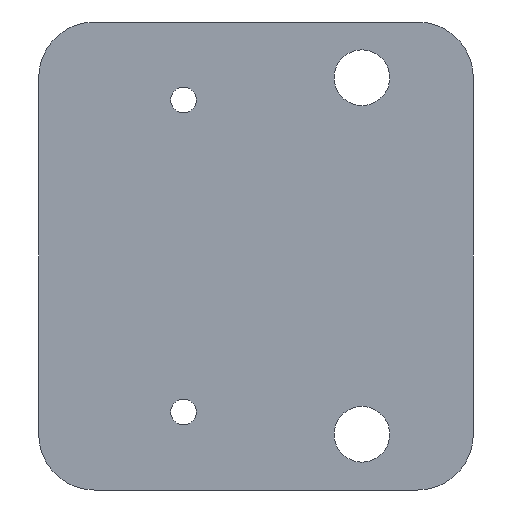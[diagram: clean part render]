
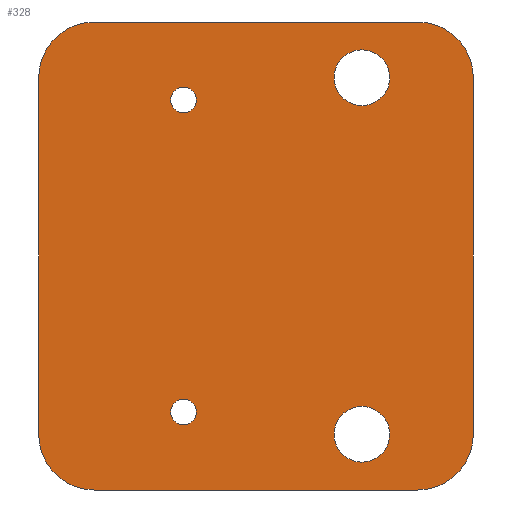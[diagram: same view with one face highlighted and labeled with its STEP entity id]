
A CAD part, front view. The second image highlights one B-rep face of the part: STEP entity #328.
In plain terms, the highlighted planar face has unit normal (0, -1, 0).
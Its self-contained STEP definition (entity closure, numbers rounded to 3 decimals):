
#1=CARTESIAN_POINT('',(30.,0.,-16.));
#2=DIRECTION('',(0.,-1.,0.));
#3=DIRECTION('',(0.,0.,1.));
#4=AXIS2_PLACEMENT_3D('',#1,#2,#3);
#6=CARTESIAN_POINT('',(30.,0.,-16.));
#7=DIRECTION('',(0.,-1.,0.));
#8=DIRECTION('',(0.,0.,-1.));
#9=AXIS2_PLACEMENT_3D('',#6,#7,#8);
#11=CARTESIAN_POINT('',(30.,0.,16.));
#12=DIRECTION('',(0.,-1.,0.));
#13=DIRECTION('',(0.,0.,1.));
#14=AXIS2_PLACEMENT_3D('',#11,#12,#13);
#16=CARTESIAN_POINT('',(30.,0.,16.));
#17=DIRECTION('',(0.,-1.,0.));
#18=DIRECTION('',(0.,0.,-1.));
#19=AXIS2_PLACEMENT_3D('',#16,#17,#18);
#21=CARTESIAN_POINT('',(14.,0.,-14.));
#22=DIRECTION('',(0.,-1.,0.));
#23=DIRECTION('',(0.,0.,1.));
#24=AXIS2_PLACEMENT_3D('',#21,#22,#23);
#26=CARTESIAN_POINT('',(14.,0.,-14.));
#27=DIRECTION('',(0.,-1.,0.));
#28=DIRECTION('',(0.,0.,-1.));
#29=AXIS2_PLACEMENT_3D('',#26,#27,#28);
#31=CARTESIAN_POINT('',(14.,0.,14.));
#32=DIRECTION('',(0.,-1.,0.));
#33=DIRECTION('',(0.,0.,1.));
#34=AXIS2_PLACEMENT_3D('',#31,#32,#33);
#36=CARTESIAN_POINT('',(14.,0.,14.));
#37=DIRECTION('',(0.,-1.,0.));
#38=DIRECTION('',(0.,0.,-1.));
#39=AXIS2_PLACEMENT_3D('',#36,#37,#38);
#41=CARTESIAN_POINT('',(6.,0.,-16.));
#42=DIRECTION('',(0.,-1.,0.));
#43=DIRECTION('',(-1.,0.,0.));
#44=AXIS2_PLACEMENT_3D('',#41,#42,#43);
#46=DIRECTION('',(0.,0.,1.));
#47=VECTOR('',#46,32.);
#48=CARTESIAN_POINT('',(1.,0.,-16.));
#49=LINE('',#48,#47);
#50=CARTESIAN_POINT('',(6.,0.,16.));
#51=DIRECTION('',(0.,-1.,0.));
#52=DIRECTION('',(0.,0.,1.));
#53=AXIS2_PLACEMENT_3D('',#50,#51,#52);
#55=DIRECTION('',(1.,0.,0.));
#56=VECTOR('',#55,29.);
#57=CARTESIAN_POINT('',(6.,0.,21.));
#58=LINE('',#57,#56);
#59=CARTESIAN_POINT('',(35.,0.,16.));
#60=DIRECTION('',(0.,-1.,0.));
#61=DIRECTION('',(1.,0.,0.));
#62=AXIS2_PLACEMENT_3D('',#59,#60,#61);
#64=DIRECTION('',(0.,0.,-1.));
#65=VECTOR('',#64,32.);
#66=CARTESIAN_POINT('',(40.,0.,16.));
#67=LINE('',#66,#65);
#68=CARTESIAN_POINT('',(35.,0.,-16.));
#69=DIRECTION('',(0.,-1.,0.));
#70=DIRECTION('',(0.,0.,-1.));
#71=AXIS2_PLACEMENT_3D('',#68,#69,#70);
#73=DIRECTION('',(-1.,0.,0.));
#74=VECTOR('',#73,29.);
#75=CARTESIAN_POINT('',(35.,0.,-21.));
#76=LINE('',#75,#74);
#217=CARTESIAN_POINT('',(30.,0.,-13.5));
#218=CARTESIAN_POINT('',(30.,0.,-18.5));
#219=VERTEX_POINT('',#217);
#220=VERTEX_POINT('',#218);
#221=CARTESIAN_POINT('',(30.,0.,18.5));
#222=CARTESIAN_POINT('',(30.,0.,13.5));
#223=VERTEX_POINT('',#221);
#224=VERTEX_POINT('',#222);
#225=CARTESIAN_POINT('',(14.,0.,-12.85));
#226=CARTESIAN_POINT('',(14.,0.,-15.15));
#227=VERTEX_POINT('',#225);
#228=VERTEX_POINT('',#226);
#229=CARTESIAN_POINT('',(14.,0.,15.15));
#230=CARTESIAN_POINT('',(14.,0.,12.85));
#231=VERTEX_POINT('',#229);
#232=VERTEX_POINT('',#230);
#249=CARTESIAN_POINT('',(1.,0.,-16.));
#250=CARTESIAN_POINT('',(6.,0.,-21.));
#251=VERTEX_POINT('',#249);
#252=VERTEX_POINT('',#250);
#257=CARTESIAN_POINT('',(6.,0.,21.));
#258=CARTESIAN_POINT('',(1.,0.,16.));
#259=VERTEX_POINT('',#257);
#260=VERTEX_POINT('',#258);
#265=CARTESIAN_POINT('',(40.,0.,16.));
#266=CARTESIAN_POINT('',(35.,0.,21.));
#267=VERTEX_POINT('',#265);
#268=VERTEX_POINT('',#266);
#273=CARTESIAN_POINT('',(35.,0.,-21.));
#274=CARTESIAN_POINT('',(40.,0.,-16.));
#275=VERTEX_POINT('',#273);
#276=VERTEX_POINT('',#274);
#281=CARTESIAN_POINT('',(0.,0.,0.));
#282=DIRECTION('',(0.,1.,0.));
#283=DIRECTION('',(0.,0.,1.));
#284=AXIS2_PLACEMENT_3D('',#281,#282,#283);
#285=PLANE('',#284);
#287=ORIENTED_EDGE('',*,*,#286,.F.);
#289=ORIENTED_EDGE('',*,*,#288,.T.);
#291=ORIENTED_EDGE('',*,*,#290,.F.);
#293=ORIENTED_EDGE('',*,*,#292,.T.);
#295=ORIENTED_EDGE('',*,*,#294,.F.);
#297=ORIENTED_EDGE('',*,*,#296,.T.);
#299=ORIENTED_EDGE('',*,*,#298,.F.);
#301=ORIENTED_EDGE('',*,*,#300,.T.);
#302=EDGE_LOOP('',(#287,#289,#291,#293,#295,#297,#299,#301));
#303=FACE_OUTER_BOUND('',#302,.F.);
#305=ORIENTED_EDGE('',*,*,#304,.T.);
#307=ORIENTED_EDGE('',*,*,#306,.T.);
#308=EDGE_LOOP('',(#305,#307));
#309=FACE_BOUND('',#308,.F.);
#311=ORIENTED_EDGE('',*,*,#310,.T.);
#313=ORIENTED_EDGE('',*,*,#312,.T.);
#314=EDGE_LOOP('',(#311,#313));
#315=FACE_BOUND('',#314,.F.);
#317=ORIENTED_EDGE('',*,*,#316,.T.);
#319=ORIENTED_EDGE('',*,*,#318,.T.);
#320=EDGE_LOOP('',(#317,#319));
#321=FACE_BOUND('',#320,.F.);
#323=ORIENTED_EDGE('',*,*,#322,.T.);
#325=ORIENTED_EDGE('',*,*,#324,.T.);
#326=EDGE_LOOP('',(#323,#325));
#327=FACE_BOUND('',#326,.F.);
#328=ADVANCED_FACE('',(#303,#309,#315,#321,#327),#285,.F.);
#5=CIRCLE('',#4,2.5);
#10=CIRCLE('',#9,2.5);
#15=CIRCLE('',#14,2.5);
#20=CIRCLE('',#19,2.5);
#25=CIRCLE('',#24,1.15);
#30=CIRCLE('',#29,1.15);
#35=CIRCLE('',#34,1.15);
#40=CIRCLE('',#39,1.15);
#45=CIRCLE('',#44,5.);
#54=CIRCLE('',#53,5.);
#63=CIRCLE('',#62,5.);
#72=CIRCLE('',#71,5.);
#286=EDGE_CURVE('',#251,#252,#45,.T.);
#288=EDGE_CURVE('',#251,#260,#49,.T.);
#290=EDGE_CURVE('',#259,#260,#54,.T.);
#292=EDGE_CURVE('',#259,#268,#58,.T.);
#294=EDGE_CURVE('',#267,#268,#63,.T.);
#296=EDGE_CURVE('',#267,#276,#67,.T.);
#298=EDGE_CURVE('',#275,#276,#72,.T.);
#300=EDGE_CURVE('',#275,#252,#76,.T.);
#304=EDGE_CURVE('',#223,#224,#15,.T.);
#306=EDGE_CURVE('',#224,#223,#20,.T.);
#310=EDGE_CURVE('',#227,#228,#25,.T.);
#312=EDGE_CURVE('',#228,#227,#30,.T.);
#316=EDGE_CURVE('',#231,#232,#35,.T.);
#318=EDGE_CURVE('',#232,#231,#40,.T.);
#322=EDGE_CURVE('',#219,#220,#5,.T.);
#324=EDGE_CURVE('',#220,#219,#10,.T.);
